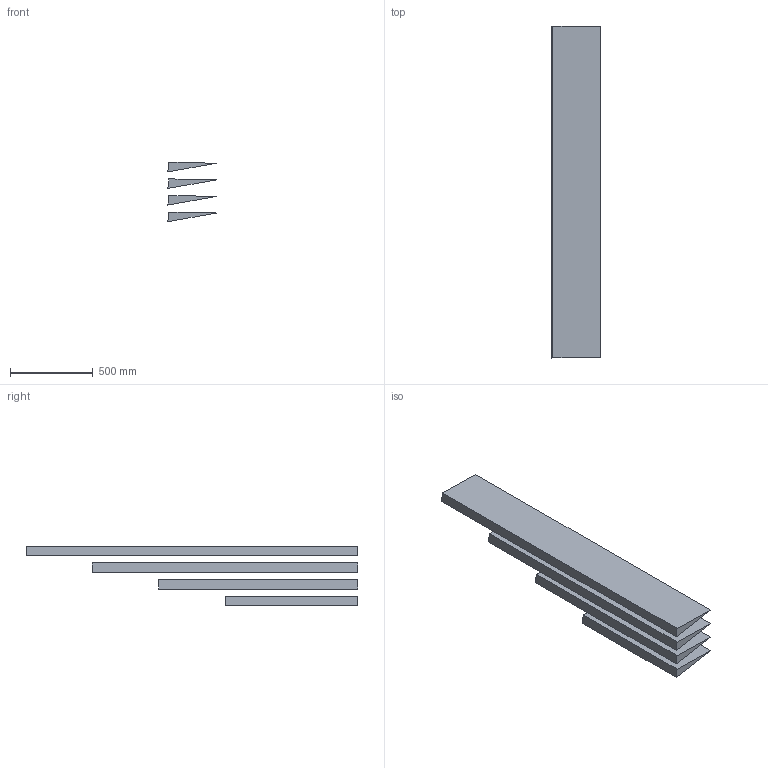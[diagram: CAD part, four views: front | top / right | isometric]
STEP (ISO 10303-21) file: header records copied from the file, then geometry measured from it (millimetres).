
FILE_DESCRIPTION(/* description */ (''),/* implementation_level */ '2;1');
FILE_NAME(/* name */ 'hang',/* time_stamp */ '2012-05-17T14:49:35+02:00',/* author */ (''),/* organization */ (''),/* preprocessor_version */ 'ST-DEVELOPER v8',/* originating_system */ '',/* authorisation */ '');
FILE_SCHEMA (('AUTOMOTIVE_DESIGN'));
Length unit declared in the file: millimetre
Products named in the file (1): 2
Bounding box: 291.04 x 2000 x 358.25 mm (x, y, z)
Volume: 44061997 mm3; surface area: 3941537.2 mm2
Topology: 4 solids, 4 shells, 20 faces, 229 edges, 213 vertices
Faces by surface type: bspline 20
Entity records: 1731 total; most frequent: CARTESIAN_POINT 1085, COMPOSITE_CURVE_SEGMENT 193, ORIENTED_EDGE 72, VECTOR 69, DIRECTION 69, LINE 69, EDGE_CURVE 36, VERTEX_POINT 24
